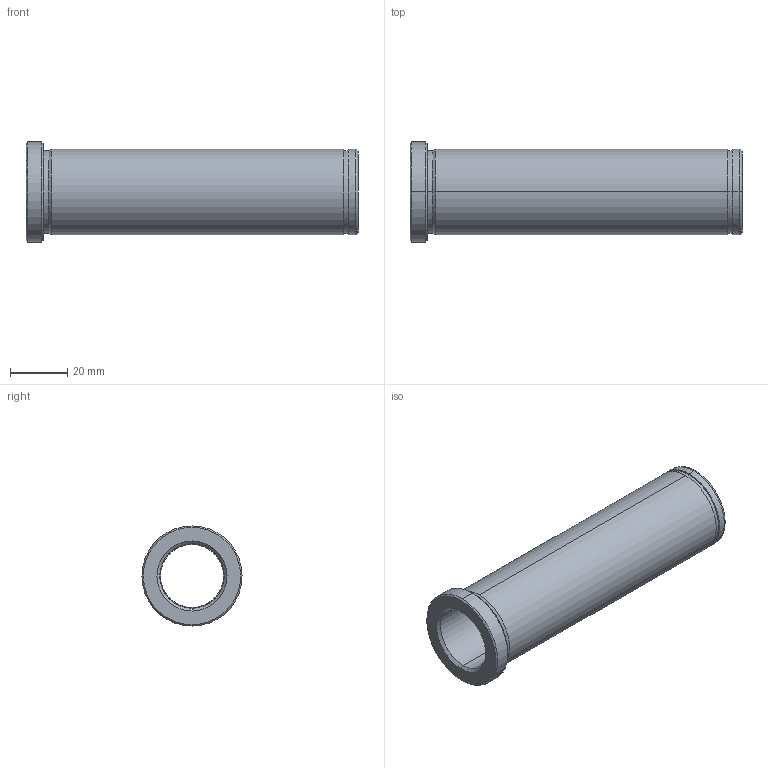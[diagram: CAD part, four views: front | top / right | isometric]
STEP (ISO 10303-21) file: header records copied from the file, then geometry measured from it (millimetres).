
FILE_DESCRIPTION(('CATIA V5 STEP Exchange'),'2;1');
FILE_NAME('C:\Users\Utente\Desktop\IO LAVORO\3D X SITO CF\X SITO\PLASTICA\553\553-22X116.stp','2021-05-25T18:05:36+00:00',('none'),('none'),'CATIA Version 5 Release 20 GA (IN-10)','CATIA V5 STEP AP203','none');
FILE_SCHEMA(('CONFIG_CONTROL_DESIGN'));
Length unit declared in the file: millimetre
Products named in the file (1): 553-22X116
Bounding box: 116 x 35 x 35 mm (x, y, z)
Volume: 38427.6 mm3; surface area: 20220.3 mm2
Topology: 1 solids, 1 shells, 32 faces, 102 edges, 76 vertices
Faces by surface type: cylinder 14, cone 8, plane 6, torus 4
Entity records: 1334 total; most frequent: CARTESIAN_POINT 389, ORIENTED_EDGE 204, DIRECTION 152, EDGE_CURVE 102, AXIS2_PLACEMENT_3D 99, VERTEX_POINT 76, CIRCLE 66, EDGE_LOOP 38
